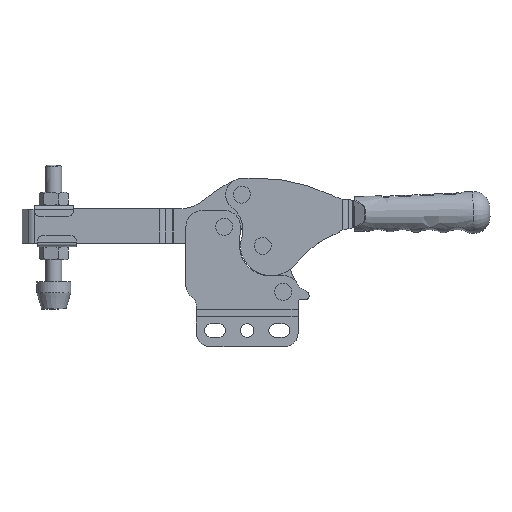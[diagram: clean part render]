
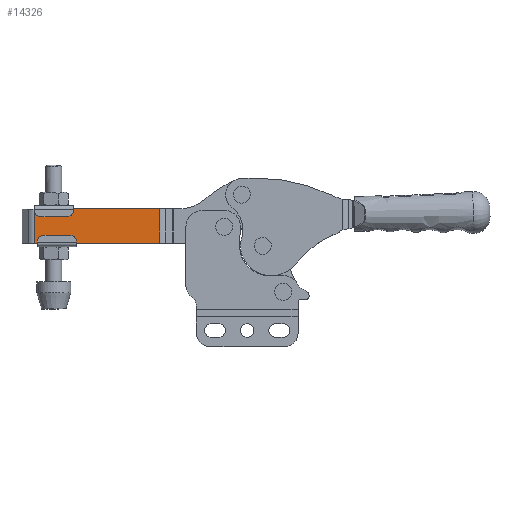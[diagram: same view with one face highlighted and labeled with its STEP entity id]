
A CAD part, top view. The second image highlights one B-rep face of the part: STEP entity #14326.
In plain terms, the highlighted planar face has unit normal (0, 0, 1).
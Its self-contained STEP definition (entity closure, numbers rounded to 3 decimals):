
#2 = DIRECTION ( 'NONE',  ( 0., -1., 0. ) ) ;
#714 = EDGE_CURVE ( 'NONE', #8089, #14600, #12289, .T. ) ;
#1060 = DIRECTION ( 'NONE',  ( 1., 0., 0. ) ) ;
#2290 = VERTEX_POINT ( 'NONE', #4188 ) ;
#2770 = EDGE_CURVE ( 'NONE', #8089, #15620, #9305, .T. ) ;
#3393 = EDGE_CURVE ( 'NONE', #14600, #2290, #3733, .T. ) ;
#3733 = LINE ( 'NONE', #9578, #18732 ) ;
#3954 = VECTOR ( 'NONE', #4969, 1000. ) ;
#4188 = CARTESIAN_POINT ( 'NONE',  ( -140.084, 13.198, 12. ) ) ;
#4459 = DIRECTION ( 'NONE',  ( -1., 0., 0. ) ) ;
#4715 = DIRECTION ( 'NONE',  ( -1., 0., 0. ) ) ;
#4969 = DIRECTION ( 'NONE',  ( 0., 1., 0. ) ) ;
#5891 = CARTESIAN_POINT ( 'NONE',  ( -140.084, -12., 12. ) ) ;
#6150 = CARTESIAN_POINT ( 'NONE',  ( -47.488, 0., 12. ) ) ;
#8089 = VERTEX_POINT ( 'NONE', #11765 ) ;
#8269 = FACE_OUTER_BOUND ( 'NONE', #13510, .T. ) ;
#9305 = LINE ( 'NONE', #10776, #11174 ) ;
#9352 = AXIS2_PLACEMENT_3D ( 'NONE', #18481, #14448, #1060 ) ;
#9578 = CARTESIAN_POINT ( 'NONE',  ( 2.598, 13.198, 12. ) ) ;
#9741 = EDGE_CURVE ( 'NONE', #2290, #15620, #11925, .T. ) ;
#10615 = ORIENTED_EDGE ( 'NONE', *, *, #714, .T. ) ;
#10776 = CARTESIAN_POINT ( 'NONE',  ( 2.598, -12., 12. ) ) ;
#11174 = VECTOR ( 'NONE', #4715, 1000. ) ;
#11765 = CARTESIAN_POINT ( 'NONE',  ( -47.488, -12., 12. ) ) ;
#11854 = ORIENTED_EDGE ( 'NONE', *, *, #3393, .T. ) ;
#11925 = LINE ( 'NONE', #16056, #13070 ) ;
#12084 = ORIENTED_EDGE ( 'NONE', *, *, #2770, .F. ) ;
#12289 = LINE ( 'NONE', #6150, #3954 ) ;
#12999 = PLANE ( 'NONE',  #9352 ) ;
#13070 = VECTOR ( 'NONE', #2, 1000. ) ;
#13510 = EDGE_LOOP ( 'NONE', ( #11854, #18595, #12084, #10615 ) ) ;
#14326 = ADVANCED_FACE ( 'NONE', ( #8269 ), #12999, .T. ) ;
#14448 = DIRECTION ( 'NONE',  ( 0., 0., 1. ) ) ;
#14600 = VERTEX_POINT ( 'NONE', #17887 ) ;
#15620 = VERTEX_POINT ( 'NONE', #5891 ) ;
#16056 = CARTESIAN_POINT ( 'NONE',  ( -140.084, 0., 12. ) ) ;
#17887 = CARTESIAN_POINT ( 'NONE',  ( -47.488, 13.198, 12. ) ) ;
#18481 = CARTESIAN_POINT ( 'NONE',  ( 2.598, 0., 12. ) ) ;
#18595 = ORIENTED_EDGE ( 'NONE', *, *, #9741, .T. ) ;
#18732 = VECTOR ( 'NONE', #4459, 1000. ) ;
